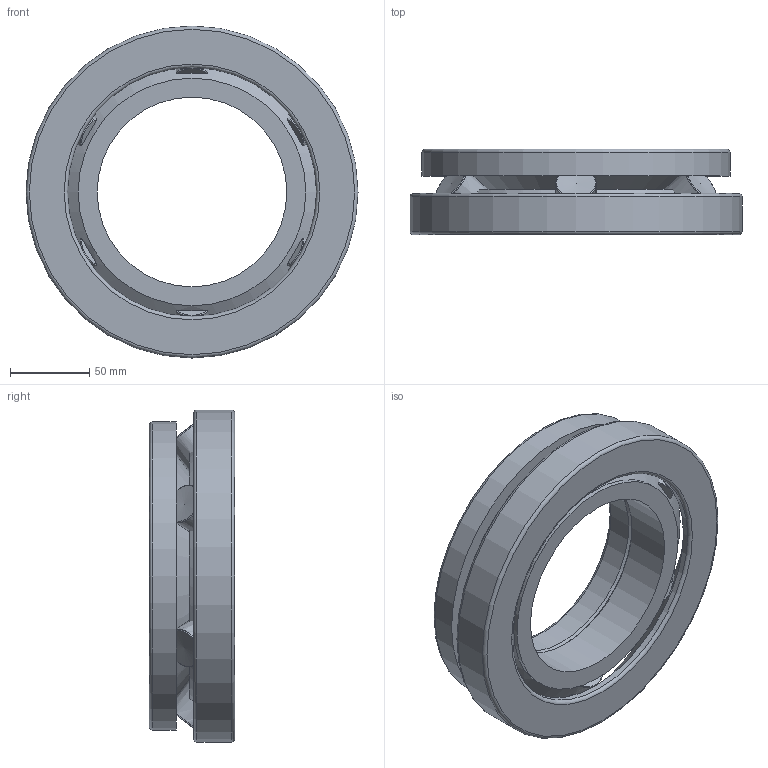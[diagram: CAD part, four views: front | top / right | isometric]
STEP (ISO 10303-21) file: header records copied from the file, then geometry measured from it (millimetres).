
FILE_DESCRIPTION(/* description */ (''),/* implementation_level */ '2;1');
FILE_NAME(/* name */ 'C:\Users\OUPIONTEKM\Desktop\MODELY\29324MC.stp',/* time_stamp */ '2023-09-18T14:11:17+02:00',/* author */ ('OUPIONTEKM'),/* organization */ (''),/* preprocessor_version */ 'ST-DEVELOPER v19',/* originating_system */ 'Autodesk Inventor 2023',/* authorisation */ '');
FILE_SCHEMA (('AUTOMOTIVE_DESIGN { 1 0 10303 214 3 1 1 }'));
Length unit declared in the file: millimetre
Products named in the file (6): 294500MC; 294500-HK; 294500-tK; drziak294500; klietka294500; sudok
Assembly tree (10 placements, depth 2):
  294500MC
    294500-HK
    294500-tK
    drziak294500
    klietka294500
    sudok  x6
Bounding box: 210 x 54 x 210 mm (x, y, z)
Volume: 821168.2 mm3; surface area: 200735.8 mm2
Topology: 10 solids, 10 shells, 92 faces, 245 edges, 168 vertices
Faces by surface type: cone 44, torus 18, plane 13, cylinder 9, bspline 7, sphere 1
Full cylindrical faces by diameter (mm): 120 x2, 123 x3, 144 x1, 157.5 x1, 195 x1, 210 x1
Entity records: 2381 total; most frequent: CARTESIAN_POINT 660, DIRECTION 334, ORIENTED_EDGE 302, AXIS2_PLACEMENT_3D 157, EDGE_CURVE 151, VERTEX_POINT 99, CIRCLE 81, EDGE_LOOP 70
